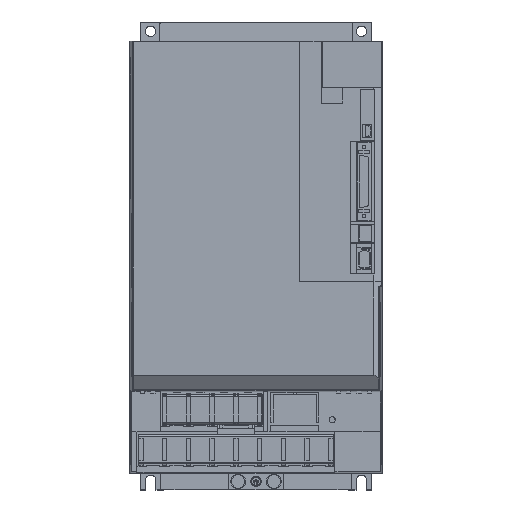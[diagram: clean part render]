
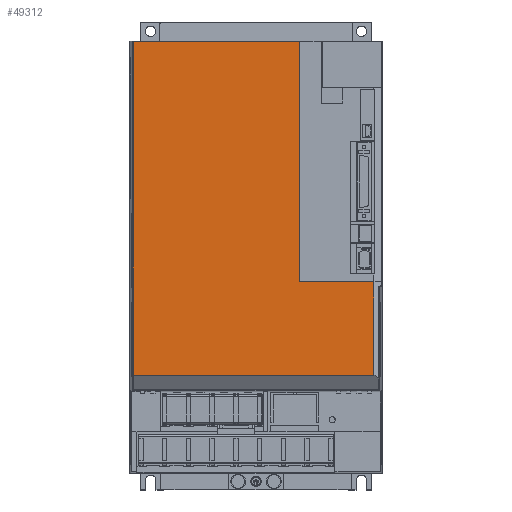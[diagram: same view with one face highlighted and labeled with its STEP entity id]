
A CAD part, top view. The second image highlights one B-rep face of the part: STEP entity #49312.
In plain terms, the highlighted planar face has unit normal (0, 0, 1).
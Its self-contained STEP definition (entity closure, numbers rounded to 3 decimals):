
#802=DIRECTION('',(-1.,0.,0.));
#803=VECTOR('',#802,50.3);
#804=CARTESIAN_POINT('',(79.5,139.8,137.));
#805=LINE('',#804,#803);
#4630=DIRECTION('',(0.,1.,0.));
#4631=VECTOR('',#4630,62.8);
#4632=CARTESIAN_POINT('',(79.5,77.,137.));
#4633=LINE('',#4632,#4631);
#4634=DIRECTION('',(1.,0.,0.));
#4635=VECTOR('',#4634,162.221);
#4636=CARTESIAN_POINT('',(-82.721,77.,137.));
#4637=LINE('',#4636,#4635);
#4638=DIRECTION('',(0.,-1.,0.));
#4639=VECTOR('',#4638,224.721);
#4640=CARTESIAN_POINT('',(-82.721,301.721,137.));
#4641=LINE('',#4640,#4639);
#4642=DIRECTION('',(-1.,0.,0.));
#4643=VECTOR('',#4642,111.921);
#4644=CARTESIAN_POINT('',(29.2,301.721,137.));
#4645=LINE('',#4644,#4643);
#4646=DIRECTION('',(0.,-1.,0.));
#4647=VECTOR('',#4646,161.921);
#4648=CARTESIAN_POINT('',(29.2,301.721,137.));
#4649=LINE('',#4648,#4647);
#38534=CARTESIAN_POINT('',(79.5,77.,137.));
#38535=CARTESIAN_POINT('',(79.5,139.8,137.));
#38536=VERTEX_POINT('',#38534);
#38537=VERTEX_POINT('',#38535);
#38547=CARTESIAN_POINT('',(-82.721,301.721,137.));
#38549=VERTEX_POINT('',#38547);
#38550=CARTESIAN_POINT('',(29.2,301.721,137.));
#38551=CARTESIAN_POINT('',(29.2,139.8,137.));
#38552=VERTEX_POINT('',#38550);
#38553=VERTEX_POINT('',#38551);
#38590=CARTESIAN_POINT('',(-82.721,77.,137.));
#38591=VERTEX_POINT('',#38590);
#49295=CARTESIAN_POINT('',(0.,67.,137.));
#49296=DIRECTION('',(0.,0.,1.));
#49297=DIRECTION('',(1.,0.,0.));
#49298=AXIS2_PLACEMENT_3D('',#49295,#49296,#49297);
#49299=PLANE('',#49298);
#49301=ORIENTED_EDGE('',*,*,#49300,.F.);
#49303=ORIENTED_EDGE('',*,*,#49302,.F.);
#49305=ORIENTED_EDGE('',*,*,#49304,.F.);
#49307=ORIENTED_EDGE('',*,*,#49306,.F.);
#49308=ORIENTED_EDGE('',*,*,#41316,.T.);
#49309=ORIENTED_EDGE('',*,*,#41100,.F.);
#49310=EDGE_LOOP('',(#49301,#49303,#49305,#49307,#49308,#49309));
#49311=FACE_OUTER_BOUND('',#49310,.F.);
#41100=EDGE_CURVE('',#38537,#38553,#805,.T.);
#41316=EDGE_CURVE('',#38552,#38553,#4649,.T.);
#49300=EDGE_CURVE('',#38536,#38537,#4633,.T.);
#49302=EDGE_CURVE('',#38591,#38536,#4637,.T.);
#49304=EDGE_CURVE('',#38549,#38591,#4641,.T.);
#49306=EDGE_CURVE('',#38552,#38549,#4645,.T.);
#49312=ADVANCED_FACE('',(#49311),#49299,.T.);
